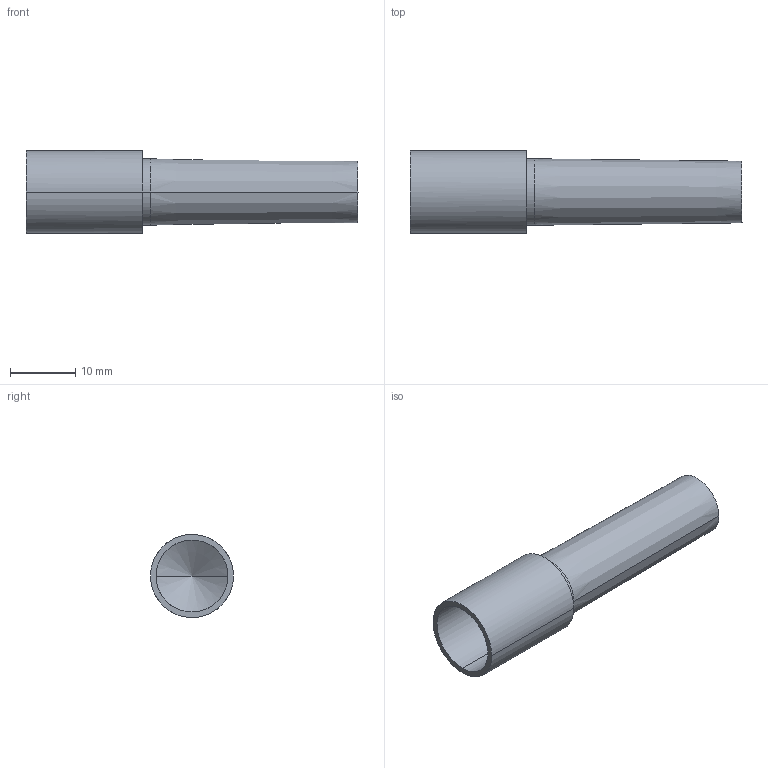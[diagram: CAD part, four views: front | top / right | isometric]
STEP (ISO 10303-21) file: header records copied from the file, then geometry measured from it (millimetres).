
FILE_DESCRIPTION (( 'STEP AP203' ), '1' );
FILE_NAME ('RMADAPTER-1F.step', '2019-09-11T18:24:48', ( 'ydmin' ), ( '' ), 'SwSTEP 2.0', 'SolidWorks 2017', '' );
FILE_SCHEMA (( 'CONFIG_CONTROL_DESIGN' ));
Length unit declared in the file: inch
Products named in the file (1): RMADAPTER-1F
Bounding box: 50.8 x 12.7 x 12.7 mm (x, y, z)
Volume: 2144.4 mm3; surface area: 3066.3 mm2
Topology: 1 solids, 1 shells, 17 faces, 38 edges, 22 vertices
Faces by surface type: cylinder 8, cone 6, plane 3
Entity records: 1063 total; most frequent: CARTESIAN_POINT 648, ORIENTED_EDGE 68, DIRECTION 62, EDGE_CURVE 34, AXIS2_PLACEMENT_3D 24, VERTEX_POINT 22, EDGE_LOOP 20, FACE_OUTER_BOUND 17
